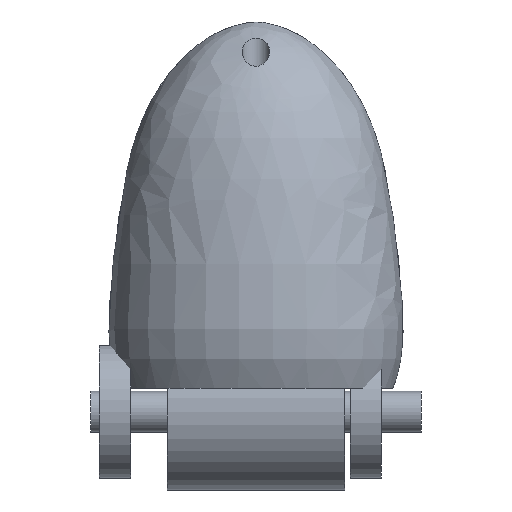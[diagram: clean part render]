
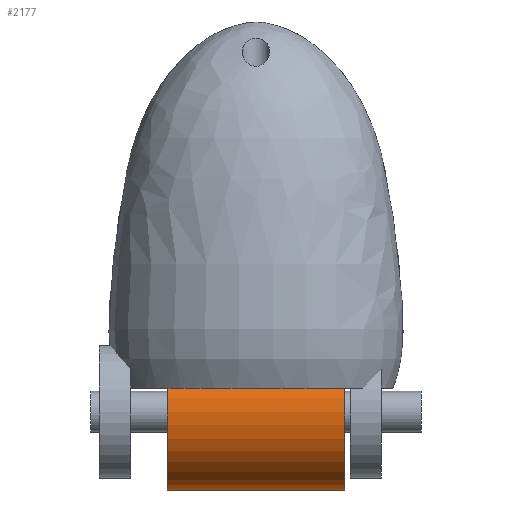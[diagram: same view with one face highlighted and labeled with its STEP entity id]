
A CAD part, left-side view. The second image highlights one B-rep face of the part: STEP entity #2177.
In plain terms, the highlighted cylindrical face has radius 4 mm (diameter 8 mm), a full revolution.
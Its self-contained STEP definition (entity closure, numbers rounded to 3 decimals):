
#2177 = ADVANCED_FACE('',(#2178),#2205,.T.);
#2178 = FACE_BOUND('',#2179,.T.);
#2179 = EDGE_LOOP('',(#2180,#2189,#2197,#2204));
#2180 = ORIENTED_EDGE('',*,*,#2181,.F.);
#2181 = EDGE_CURVE('',#2182,#2182,#2184,.T.);
#2182 = VERTEX_POINT('',#2183);
#2183 = CARTESIAN_POINT('',(0.,4.552,4.));
#2184 = CIRCLE('',#2185,4.);
#2185 = AXIS2_PLACEMENT_3D('',#2186,#2187,#2188);
#2186 = CARTESIAN_POINT('',(0.,4.552,0.));
#2187 = DIRECTION('',(0.,1.,0.));
#2188 = DIRECTION('',(0.,-0.,1.));
#2189 = ORIENTED_EDGE('',*,*,#2190,.F.);
#2190 = EDGE_CURVE('',#2191,#2182,#2193,.T.);
#2191 = VERTEX_POINT('',#2192);
#2192 = CARTESIAN_POINT('',(0.,-4.552,4.));
#2193 = LINE('',#2194,#2195);
#2194 = CARTESIAN_POINT('',(0.,-4.552,4.));
#2195 = VECTOR('',#2196,1.);
#2196 = DIRECTION('',(0.,1.,0.));
#2197 = ORIENTED_EDGE('',*,*,#2198,.T.);
#2198 = EDGE_CURVE('',#2191,#2191,#2199,.T.);
#2199 = CIRCLE('',#2200,4.);
#2200 = AXIS2_PLACEMENT_3D('',#2201,#2202,#2203);
#2201 = CARTESIAN_POINT('',(0.,-4.552,0.));
#2202 = DIRECTION('',(0.,1.,0.));
#2203 = DIRECTION('',(0.,-0.,1.));
#2204 = ORIENTED_EDGE('',*,*,#2190,.T.);
#2205 = CYLINDRICAL_SURFACE('',#2206,4.);
#2206 = AXIS2_PLACEMENT_3D('',#2207,#2208,#2209);
#2207 = CARTESIAN_POINT('',(0.,-4.552,0.));
#2208 = DIRECTION('',(0.,1.,0.));
#2209 = DIRECTION('',(0.,-0.,1.));
